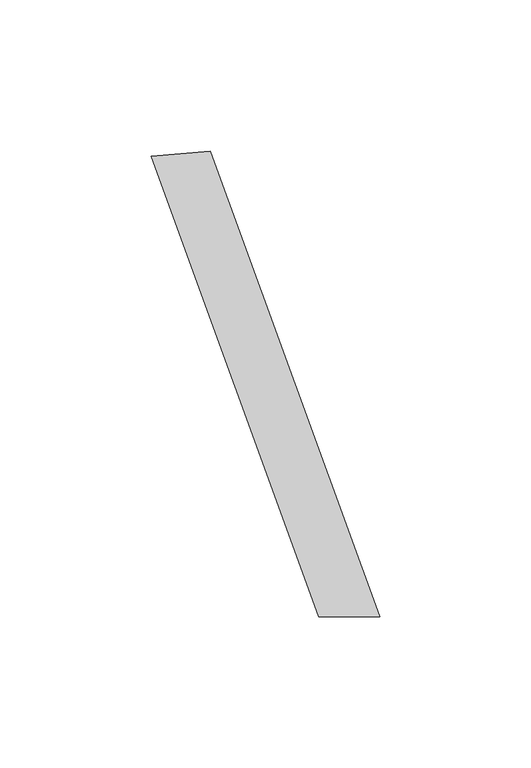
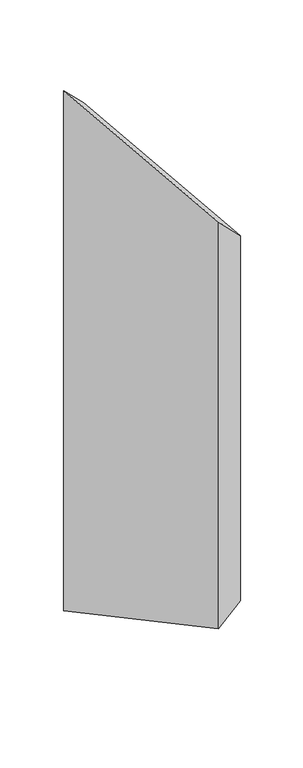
"""IFC4 building model written with IfcOpenShell, lengths in millimetres: proxy geometry, GRADIENT^TABLE 5_PRISM BASE-LT END BOTTOM."""

from ifc_helpers import new_model, si_unit, origin, place, context, project, spatial, faceted_brep, source, transform, mapped, element, save


def generic_models_f1b2acdb(model_context):
    return source(origin(), model_context, "Body", "Brep", [
        faceted_brep([(476.846963, -557.0811135, -375.246963), (457.2, -558.8, -355.6), (512.6690637, -711.2, -411.0690637), (532.9416503, -711.2, -431.3416503), (476.846963, -557.0811135, -843.953037), (457.2, -558.8, -863.6), (512.6690637, -711.2, -808.1309363), (532.9416503, -711.2, -787.8583497)], [[[0, 1, 2, 3]], [[1, 0, 4, 5]], [[3, 2, 6, 7]], [[2, 1, 5, 6]], [[5, 4, 7, 6]], [[0, 3, 7, 4]]]),
    ])


if __name__ == "__main__":
    model = new_model("IFC4")
    model_context = context("Model", 3, world=origin())
    ifc_project = project(units=[si_unit("LENGTHUNIT", "METRE", prefix="MILLI")], contexts=[model_context])
    site = spatial("IfcSite", under=ifc_project)
    building = spatial("IfcBuilding", under=site)
    placement = place(None, origin())
    generic_models_shape = generic_models_f1b2acdb(model_context)
    element("IfcBuildingElementProxy", 1, Name="GRADIENT^TABLE 5_PRISM BASE-LT END BOTTOM", ObjectType="GRADIENT^TABLE 5_PRISM BASE-LT END BOTTOM", at=placement, inside=building, context=model_context, shape_type="MappedRepresentation", body=[
        mapped(generic_models_shape, transform((0.0, 0.0, 0.0), x_axis=(1.0, 0.0, 0.0), y_axis=(0.0, 1.0, 0.0), z_axis=(0.0, 0.0, 1.0))),
    ])
    save(model, "model.ifc")
